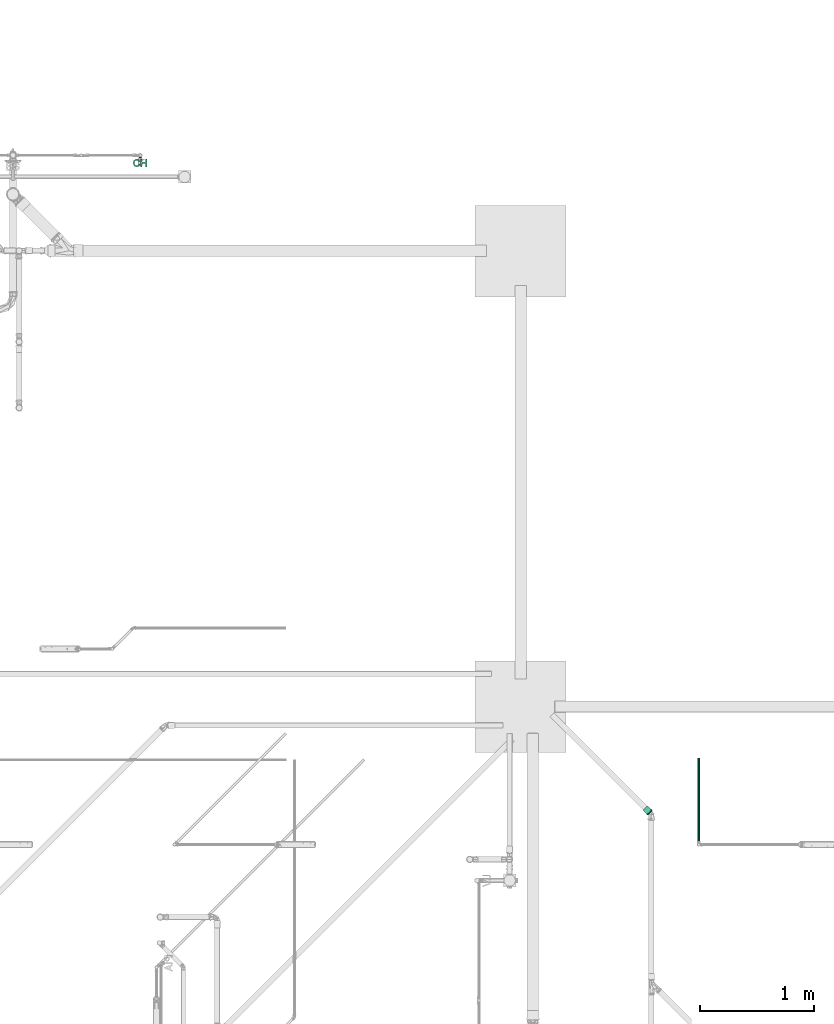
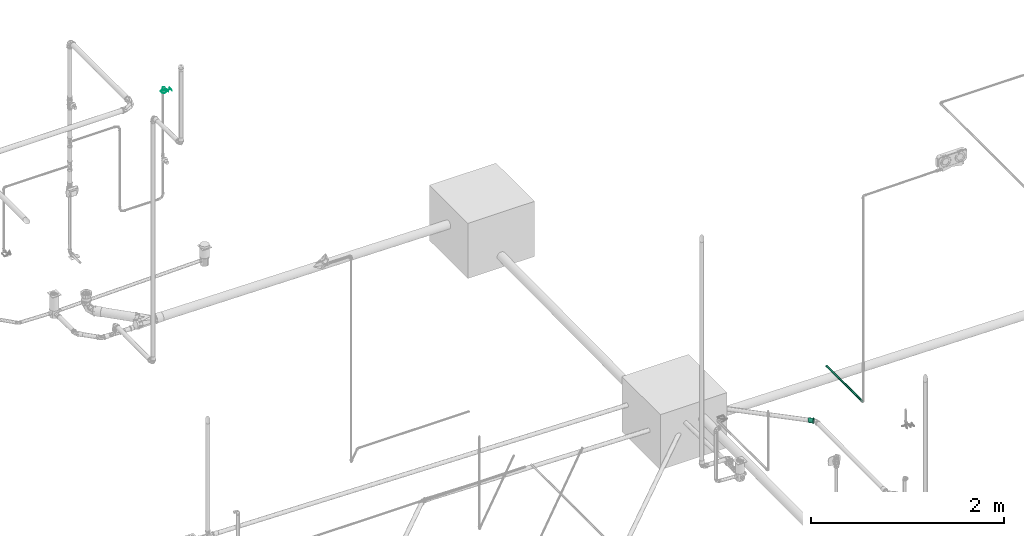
# One storey, part 297 of 589: 1 flow fitting, 1 flow segment, 1 flow terminal.
"""IFC2X3 building model written with IfcOpenShell, lengths in millimetres."""

from ifc_helpers import new_model, entity, si_unit, converted_unit, derived_unit, direction, frame, frame_2d, origin, place, context, subcontext, project, spatial, circle, extrude, face_set, faceted_brep, surface_model, source, transform, mapped, material, type_object, type_shapes, element, save


model = new_model("IFC2X3")

# Units and contexts
model_context = context("Model", 3, precision=0.01, world=origin(), true_north=direction((6.123031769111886e-17, 1.0)))
body_context = subcontext(model_context, "Body", "Model", "MODEL_VIEW")
ifc_project = project(units=[si_unit("LENGTHUNIT", "METRE", prefix="MILLI"), si_unit("AREAUNIT", "SQUARE_METRE"), si_unit("VOLUMEUNIT", "CUBIC_METRE"), converted_unit("PLANEANGLEUNIT", "DEGREE", entity("IfcRatioMeasure", 0.017453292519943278), si_unit("PLANEANGLEUNIT", "RADIAN"), dimensions=[0, 0, 0, 0, 0, 0, 0]), si_unit("MASSUNIT", "GRAM", prefix="KILO"), derived_unit("MASSDENSITYUNIT", [(si_unit("MASSUNIT", "GRAM", prefix="KILO"), 1), (si_unit("LENGTHUNIT", "METRE"), -3)]), derived_unit("IONCONCENTRATIONUNIT", [(si_unit("MASSUNIT", "GRAM", prefix="KILO"), 1), (si_unit("LENGTHUNIT", "METRE"), -3)]), derived_unit("MOMENTOFINERTIAUNIT", [(si_unit("LENGTHUNIT", "METRE"), 4)]), si_unit("TIMEUNIT", "SECOND"), si_unit("FREQUENCYUNIT", "HERTZ"), si_unit("THERMODYNAMICTEMPERATUREUNIT", "DEGREE_CELSIUS"), derived_unit("THERMALTRANSMITTANCEUNIT", [(si_unit("MASSUNIT", "GRAM", prefix="KILO"), 1), (si_unit("THERMODYNAMICTEMPERATUREUNIT", "KELVIN"), -1), (si_unit("TIMEUNIT", "SECOND"), -3)]), derived_unit("THERMALCONDUCTANCEUNIT", [(si_unit("MASSUNIT", "GRAM", prefix="KILO"), 1), (si_unit("THERMODYNAMICTEMPERATUREUNIT", "KELVIN"), -1), (si_unit("TIMEUNIT", "SECOND"), -3), (si_unit("LENGTHUNIT", "METRE"), 1)]), derived_unit("VOLUMETRICFLOWRATEUNIT", [(si_unit("LENGTHUNIT", "METRE"), 3), (si_unit("TIMEUNIT", "SECOND"), -1)]), derived_unit("MASSFLOWRATEUNIT", [(si_unit("MASSUNIT", "GRAM", prefix="KILO"), 1), (si_unit("TIMEUNIT", "SECOND"), -1)]), derived_unit("ROTATIONALFREQUENCYUNIT", [(si_unit("TIMEUNIT", "SECOND"), -1)]), si_unit("ELECTRICCURRENTUNIT", "AMPERE"), si_unit("ELECTRICVOLTAGEUNIT", "VOLT"), si_unit("POWERUNIT", "WATT"), si_unit("FORCEUNIT", "NEWTON", prefix="KILO"), si_unit("ILLUMINANCEUNIT", "LUX"), si_unit("LUMINOUSFLUXUNIT", "LUMEN"), si_unit("LUMINOUSINTENSITYUNIT", "CANDELA"), derived_unit("USERDEFINED", [(si_unit("MASSUNIT", "GRAM", prefix="KILO"), -1), (si_unit("LENGTHUNIT", "METRE"), -2), (si_unit("TIMEUNIT", "SECOND"), 3), (si_unit("LUMINOUSFLUXUNIT", "LUMEN"), 1)]), derived_unit("USERDEFINED", [(si_unit("MASSUNIT", "GRAM", prefix="KILO"), 1), (si_unit("TIMEUNIT", "SECOND"), -3), (si_unit("LENGTHUNIT", "METRE"), 3), (si_unit("ELECTRICCURRENTUNIT", "AMPERE"), -2)]), derived_unit("SOUNDPOWERUNIT", [(si_unit("MASSUNIT", "GRAM", prefix="KILO"), 1), (si_unit("TIMEUNIT", "SECOND"), -3), (si_unit("LENGTHUNIT", "METRE"), 2)]), derived_unit("SOUNDPRESSUREUNIT", [(si_unit("MASSUNIT", "GRAM", prefix="KILO"), 1), (si_unit("LENGTHUNIT", "METRE"), -1), (si_unit("TIMEUNIT", "SECOND"), -2)]), derived_unit("LINEARVELOCITYUNIT", [(si_unit("LENGTHUNIT", "METRE"), 1), (si_unit("TIMEUNIT", "SECOND"), -1)]), si_unit("PRESSUREUNIT", "PASCAL"), derived_unit("USERDEFINED", [(si_unit("MASSUNIT", "GRAM", prefix="KILO"), 1), (si_unit("LENGTHUNIT", "METRE"), -2), (si_unit("TIMEUNIT", "SECOND"), -2)]), derived_unit("LINEARFORCEUNIT", [(si_unit("MASSUNIT", "GRAM", prefix="KILO"), 1), (si_unit("TIMEUNIT", "SECOND"), -2)]), derived_unit("PLANARFORCEUNIT", [(si_unit("MASSUNIT", "GRAM", prefix="KILO"), 1), (si_unit("LENGTHUNIT", "METRE"), -1), (si_unit("TIMEUNIT", "SECOND"), -2)]), derived_unit("SPECIFICHEATCAPACITYUNIT", [(si_unit("THERMODYNAMICTEMPERATUREUNIT", "KELVIN"), -1), (si_unit("LENGTHUNIT", "METRE"), 2), (si_unit("TIMEUNIT", "SECOND"), -2)]), derived_unit("HEATINGVALUEUNIT", [(si_unit("LENGTHUNIT", "METRE"), 2), (si_unit("TIMEUNIT", "SECOND"), -2)]), derived_unit("VAPORPERMEABILITYUNIT", [(si_unit("LENGTHUNIT", "METRE"), -1), (si_unit("TIMEUNIT", "SECOND"), 1)]), derived_unit("DYNAMICVISCOSITYUNIT", [(si_unit("MASSUNIT", "GRAM", prefix="KILO"), 1), (si_unit("TIMEUNIT", "SECOND"), -1), (si_unit("LENGTHUNIT", "METRE"), -1)]), derived_unit("THERMALEXPANSIONCOEFFICIENTUNIT", [(si_unit("THERMODYNAMICTEMPERATUREUNIT", "KELVIN"), -1)]), derived_unit("MODULUSOFELASTICITYUNIT", [(si_unit("MASSUNIT", "GRAM", prefix="KILO"), 1), (si_unit("LENGTHUNIT", "METRE"), -1), (si_unit("TIMEUNIT", "SECOND"), -2)]), derived_unit("ISOTHERMALMOISTURECAPACITYUNIT", [(si_unit("LENGTHUNIT", "METRE"), 3), (si_unit("MASSUNIT", "GRAM", prefix="KILO"), -1)]), derived_unit("MOISTUREDIFFUSIVITYUNIT", [(si_unit("TIMEUNIT", "SECOND"), -1), (si_unit("LENGTHUNIT", "METRE"), 2)])], contexts=[model_context])

# Site, building, storey
site_placement = place(None, origin())
site = spatial("IfcSite", under=ifc_project, at=site_placement, Name="Default", CompositionType="ELEMENT")
building_placement = place(site_placement, origin())
building = spatial("IfcBuilding", under=site, at=building_placement, CompositionType="ELEMENT")
storey_placement = place(building_placement, frame((0.0, 0.0, 100.0)))
storey = spatial("IfcBuildingStorey", under=building, at=storey_placement, Name="TÉRREO", CompositionType="ELEMENT", Elevation=100.0)

# Flow terminal
ifc_material_1 = material(Name="<Unnamed>")
distribution_element_type = type_object("IfcDistributionElementType", Name="Hidráulica_Ponto de Utilização_Uso Provável_Rodrigo MEP:Chuveiro Elétrico CH (Peso 0,1)", material=ifc_material_1)
shared_shape_1 = source(origin(), body_context, "Body", "SurfaceModel", [
    surface_model("IfcFaceBasedSurfaceModel", [(48.0, 23.749999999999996, 11.595272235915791), (41.21093749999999, 11.968749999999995, 11.595272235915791), (28.968749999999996, 8.0, 11.595272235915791), (17.9296875, 10.91406249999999, 11.595272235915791), (10.414062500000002, 19.718749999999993, 11.595272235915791), (8.0, 33.5, 11.595272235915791), (10.039062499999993, 45.39062499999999, 11.595272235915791), (17.109374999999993, 54.57812499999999, 11.595272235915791), (29.624999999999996, 58.0, 11.595272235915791), (40.43749999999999, 54.91406249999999, 11.595272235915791), (47.0, 45.078125, 11.595272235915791), (55.0, 46.98437499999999, 11.595272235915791), (45.96093749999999, 61.01562499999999, 11.595272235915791), (29.937499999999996, 66.0, 11.595272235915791), (14.562499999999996, 62.1484375, 11.595272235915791), (3.789062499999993, 50.87499999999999, 11.595272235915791), (0.0, 33.48437499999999, 11.595272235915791), (3.3515624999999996, 16.374999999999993, 11.595272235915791), (13.117187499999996, 4.203124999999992, 11.595272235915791), (29.765624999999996, 0.0, 11.595272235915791), (46.515625, 5.554687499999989, 11.595272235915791), (56.0, 21.687499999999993, 11.595272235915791), (67.0, 1.0, 11.595272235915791), (75.0, 1.0, 11.595272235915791), (75.0, 31.0, 11.595272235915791), (109.0, 31.0, 11.595272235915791), (109.0, 1.0, 11.595272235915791), (117.0, 1.0, 11.595272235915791), (117.0, 65.0, 11.595272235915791), (109.0, 65.0, 11.595272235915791), (109.0, 39.0, 11.595272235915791), (75.0, 39.0, 11.595272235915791), (75.0, 65.0, 11.595272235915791), (67.0, 65.0, 11.595272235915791), (50.0, 79.06704158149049, 11.595272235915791), (50.340741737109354, 79.06704158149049, 14.183462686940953), (51.33974596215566, 79.06704158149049, 16.59527223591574), (52.92893218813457, 79.06704158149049, 18.666340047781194), (55.0, 79.06704158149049, 20.25552627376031), (57.41180954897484, 79.06704158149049, 21.254530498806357), (60.0, 79.06704158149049, 21.595272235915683), (62.58819045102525, 79.06704158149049, 21.254530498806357), (65.0, 79.06704158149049, 20.255526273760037), (67.0710678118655, 79.06704158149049, 18.666340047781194), (68.66025403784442, 79.06704158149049, 16.59527223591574), (69.65925826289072, 79.06704158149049, 14.183462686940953), (70.0, 79.06704158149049, 11.595272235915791), (69.6592582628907, 79.06704158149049, 9.007081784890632), (68.66025403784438, 79.06704158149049, 6.5952722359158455), (67.07106781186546, 79.06704158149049, 4.524204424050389), (65.0, 79.06704158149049, 2.9350181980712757), (62.58819045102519, 79.06704158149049, 1.9360139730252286), (60.0, 79.06704158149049, 1.5952722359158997), (57.41180954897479, 79.06704158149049, 1.9360139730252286), (55.0, 79.06704158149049, 2.935018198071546), (52.928932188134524, 79.06704158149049, 4.524204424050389), (51.339745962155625, 79.06704158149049, 6.5952722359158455), (50.34074173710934, 79.06704158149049, 9.007081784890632), (50.0, 84.06704158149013, 11.595272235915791), (50.340741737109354, 84.06704158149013, 14.183462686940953), (51.33974596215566, 84.06704158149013, 16.59527223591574), (52.92893218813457, 84.06704158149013, 18.666340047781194), (55.0, 84.06704158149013, 20.25552627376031), (57.41180954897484, 84.06704158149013, 21.254530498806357), (60.0, 84.06704158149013, 21.595272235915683), (62.58819045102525, 84.06704158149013, 21.254530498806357), (65.0, 84.06704158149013, 20.255526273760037), (67.0710678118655, 84.06704158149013, 18.666340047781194), (68.66025403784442, 84.06704158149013, 16.59527223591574), (69.65925826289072, 84.06704158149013, 14.183462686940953), (70.0, 84.06704158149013, 11.595272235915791), (69.6592582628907, 84.06704158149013, 9.007081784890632), (68.66025403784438, 84.06704158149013, 6.5952722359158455), (67.07106781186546, 84.06704158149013, 4.524204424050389), (65.0, 84.06704158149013, 2.9350181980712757), (62.58819045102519, 84.06704158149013, 1.9360139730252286), (60.0, 84.06704158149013, 1.5952722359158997), (57.41180954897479, 84.06704158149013, 1.9360139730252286), (55.0, 84.06704158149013, 2.935018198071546), (52.928932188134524, 84.06704158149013, 4.524204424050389), (51.339745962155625, 84.06704158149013, 6.5952722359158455), (50.34074173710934, 84.06704158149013, 9.007081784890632)], [face_set([[[0, 1, 2, 3, 4, 5, 6, 7, 8, 9, 10, 11, 12, 13, 14, 15, 16, 17, 18, 19, 20, 21]], [[22, 23, 24, 25, 26, 27, 28, 29, 30, 31, 32, 33]]]), face_set([[[34, 35, 36, 37, 38, 39, 40, 41, 42, 43, 44, 45, 46, 47, 48, 49, 50, 51, 52, 53, 54, 55, 56, 57]], [[58, 59, 60, 61, 62, 63, 64, 65, 66, 67, 68, 69, 70, 71, 72, 73, 74, 75, 76, 77, 78, 79, 80, 81]], [[58, 81, 57, 34]], [[81, 80, 56, 57]], [[79, 78, 54, 55]], [[80, 79, 55, 56]], [[78, 77, 53, 54]], [[52, 53, 77, 76]], [[76, 75, 51, 52]], [[75, 74, 50, 51]], [[73, 72, 48, 49]], [[74, 73, 49, 50]], [[72, 71, 47, 48]], [[46, 47, 71, 70]], [[70, 69, 45, 46]], [[69, 68, 44, 45]], [[67, 66, 42, 43]], [[68, 67, 43, 44]], [[66, 65, 41, 42]], [[40, 41, 65, 64]], [[64, 63, 39, 40]], [[63, 62, 38, 39]], [[61, 60, 36, 37]], [[62, 61, 37, 38]], [[60, 59, 35, 36]], [[34, 35, 59, 58]]])]),
])
type_shapes(distribution_element_type, [shared_shape_1])
flow_terminal_placement = place(storey_placement, frame((7110.736711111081, 7435.557711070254, 1988.404727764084)))
element("IfcFlowTerminal", 1, at=flow_terminal_placement, inside=storey, type_object=distribution_element_type, material=ifc_material_1, Name="Hidráulica_Ponto de Utilização_Uso Provável_Rodrigo MEP:Chuveiro Elétrico CH (Peso 0,1)", ObjectType="Hidráulica_Ponto de Utilização_Uso Provável_Rodrigo MEP:Chuveiro Elétrico CH (Peso 0,1)", context=body_context, shape_type="MappedRepresentation", body=[
    mapped(shared_shape_1, transform((0.0, 0.0, 0.0), scale=1.0)),
])

# Flow segment
pipe_segment_type = type_object("IfcPipeSegmentType", Name="Tipos de tubos:PVC Marrom Soldável", PredefinedType="NOTDEFINED")
flow_segment_placement = place(storey_placement, origin())
element("IfcFlowSegment", 2, at=flow_segment_placement, inside=storey, type_object=pipe_segment_type, Name="Tipos de tubos:PVC Marrom Soldável", ObjectType="Tipos de tubos:PVC Marrom Soldável", context=body_context, shape_type="SweptSolid", body=[
    extrude(circle(Radius=12.5, at=frame_2d((9.610862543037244e-28, -8.443855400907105e-15), x_axis=(1.0, 0.0))), frame((12071.388900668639, 1502.6074695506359, -37.352537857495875), z_axis=(0.0, 1.0, 0.0), x_axis=(1.0, 0.0, 0.0)), (5.178768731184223e-09, 0.0, 1.0), 744.6000000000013),
])

# Flow fitting
ifc_material_2 = material(Name="PVC Série Normal")
pipe_fitting_type = type_object("IfcPipeFittingType", Name="PVC Esgoto_Luva Simples para Conexão_Rodrigo MEP:Standard", PredefinedType="NOTDEFINED", material=ifc_material_2)
shared_shape_2 = source(origin(), body_context, "Body", "Brep", [
    faceted_brep([(16.599999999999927, 15.900000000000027, -27.53960784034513), (16.599999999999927, 22.485995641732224, -22.485995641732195), (16.599999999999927, 13.599999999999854, -23.555890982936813), (16.599999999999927, 7.039878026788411, -26.273182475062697), (16.599999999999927, 8.2304456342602, -30.71644127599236), (16.599999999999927, 19.233304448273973, -19.233304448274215), (16.599999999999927, 27.539607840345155, -15.899999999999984), (16.599999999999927, 23.55589098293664, -13.600000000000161), (16.599999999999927, 26.273182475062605, -7.03987802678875), (16.599999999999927, 30.716441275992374, -8.230445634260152), (16.599999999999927, 27.2, 0.0), (16.599999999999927, 31.8, 0.0), (16.599999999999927, 26.273182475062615, 7.0398780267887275), (16.599999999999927, 30.71644127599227, 8.23044563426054), (16.599999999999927, 23.555890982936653, 13.60000000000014), (16.599999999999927, 27.539607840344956, 15.900000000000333), (16.599999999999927, 19.233304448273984, 19.2333044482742), (16.599999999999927, 22.485995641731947, 22.48599564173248), (16.599999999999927, 13.599999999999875, 23.555890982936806), (16.599999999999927, 15.899999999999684, 27.53960784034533), (16.599999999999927, 7.039878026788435, 26.27318247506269), (16.599999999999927, 8.230445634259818, 30.716441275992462), (16.599999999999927, 0.0, 27.2), (16.599999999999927, 0.0, 31.8), (16.599999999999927, -7.039878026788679, 26.273182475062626), (16.599999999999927, -8.230445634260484, 30.716441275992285), (16.599999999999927, -13.600000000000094, 23.555890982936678), (16.599999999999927, -15.900000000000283, 27.53960784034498), (16.599999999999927, -19.23330444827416, 19.233304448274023), (16.599999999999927, -22.485995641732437, 22.48599564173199), (16.599999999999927, -23.55589098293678, 13.59999999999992), (16.599999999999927, -27.539607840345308, 15.899999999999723), (16.599999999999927, -30.71644127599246, 8.230445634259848), (16.599999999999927, -26.273182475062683, 7.039878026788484), (16.599999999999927, -31.8, 0.0), (16.599999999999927, -27.2, 0.0), (16.599999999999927, -30.71644127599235, -8.23044563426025), (16.599999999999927, -26.273182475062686, -7.03987802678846), (16.599999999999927, -27.53960784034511, -15.90000000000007), (16.599999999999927, -23.55589098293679, -13.599999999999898), (16.599999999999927, -22.485995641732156, -22.485995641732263), (16.599999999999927, -19.233304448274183, -19.233304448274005), (16.599999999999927, -15.899999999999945, -27.53960784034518), (16.599999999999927, -13.600000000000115, -23.555890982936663), (16.599999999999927, -8.230445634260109, -30.716441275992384), (16.599999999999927, -7.039878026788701, -26.273182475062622), (16.599999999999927, 0.0, -31.8), (16.599999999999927, 0.0, -27.2), (6.500000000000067, -10.708108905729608, 29.429219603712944), (6.500000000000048, -24.359073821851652, 20.44200387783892), (6.500000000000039, -27.120498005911, 15.6595386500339), (6.50000000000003, -29.881922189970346, 10.877073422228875), (6.500000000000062, -15.89769721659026, 27.540937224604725), (6.500000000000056, -20.128385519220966, 23.991470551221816), (6.50000000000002, -30.840961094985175, 5.438536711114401), (6.5000000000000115, -31.8, 0.0), (6.50000000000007, -5.518520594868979, 31.317501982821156), (6.500000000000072, 5.526376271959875, 31.316116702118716), (6.50000000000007, 0.00392783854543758, 31.316809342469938), (6.500000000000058, 20.134403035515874, 23.986420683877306), (6.500000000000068, 10.715490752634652, 29.42653259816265), (6.500000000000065, 15.904605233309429, 27.536948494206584), (6.500000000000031, 29.8846497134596, 10.869577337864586), (6.500000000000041, 27.12442527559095, 15.652735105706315), (6.5000000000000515, 24.364200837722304, 20.435892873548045), (6.5000000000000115, 31.8, 0.0), (6.499999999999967, 24.364200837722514, -20.435892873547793), (6.499999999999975, 27.12442527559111, -15.652735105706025), (6.499999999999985, 29.884649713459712, -10.869577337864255), (6.4999999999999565, 15.904605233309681, -27.53694849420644), (6.499999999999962, 20.134403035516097, -23.986420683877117), (6.499999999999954, 10.715490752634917, -29.42653259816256), (6.499999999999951, 5.526376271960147, -31.31611670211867), (6.499999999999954, -5.518520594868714, -31.317501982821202), (6.499999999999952, 0.003927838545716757, -31.316809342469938), (6.499999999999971, -20.128385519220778, -23.99147055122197), (6.499999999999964, -15.897697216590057, -27.54093722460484), (6.499999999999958, -10.70810890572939, -29.42921960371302), (6.499999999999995, -29.881922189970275, -10.877073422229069), (6.499999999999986, -27.12049800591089, -15.659538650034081), (6.499999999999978, -24.359073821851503, -20.442003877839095), (6.500000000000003, -30.840961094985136, -5.438536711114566), (6.499999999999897, -30.696173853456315, -6.259599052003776), (62.0, 13.600000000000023, -23.55589098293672), (62.0, 19.233304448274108, -19.23330444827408), (62.0, 12.499999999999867, -21.650635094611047), (62.0, 6.470476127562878, -24.14814565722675), (62.0, 7.039878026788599, -26.273182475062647), (62.0, 17.677669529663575, -17.677669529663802), (62.0, 23.55589098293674, -13.599999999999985), (62.0, 21.65063509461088, -12.50000000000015), (62.0, 24.148145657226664, -6.470476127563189), (62.0, 26.27318247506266, -7.039878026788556), (62.0, 25.0, 0.0), (62.0, 27.2, 0.0), (62.0, 24.148145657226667, 6.4704761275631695), (62.0, 26.273182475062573, 7.03987802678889), (62.0, 21.650635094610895, 12.500000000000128), (62.0, 23.555890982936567, 13.600000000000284), (62.0, 17.67766952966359, 17.67766952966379), (62.0, 19.233304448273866, 19.233304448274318), (62.0, 12.499999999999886, 21.650635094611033), (62.0, 13.59999999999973, 23.55589098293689), (62.0, 6.4704761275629, 24.14814565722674), (62.0, 7.039878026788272, 26.273182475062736), (62.0, 0.0, 25.0), (62.0, 0.0, 27.2), (62.0, -6.470476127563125, 24.148145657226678), (62.0, -7.039878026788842, 26.273182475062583), (62.0, -12.500000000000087, 21.650635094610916), (62.0, -13.600000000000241, 23.555890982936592), (62.0, -17.677669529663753, 17.677669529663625), (62.0, -19.233304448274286, 19.2333044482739), (62.0, -21.65063509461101, 12.499999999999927), (62.0, -23.555890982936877, 13.599999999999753), (62.0, -26.27318247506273, 7.039878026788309), (62.0, -24.14814565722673, 6.470476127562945), (62.0, -27.2, 0.0), (62.0, -25.0, 0.0), (62.0, -26.27318247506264, -7.0398780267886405), (62.0, -24.148145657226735, -6.470476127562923), (62.0, -23.5558909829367, -13.600000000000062), (62.0, -21.650635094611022, -12.499999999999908), (62.0, -19.233304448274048, -19.233304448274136), (62.0, -17.67766952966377, -17.677669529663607), (62.0, -13.599999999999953, -23.555890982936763), (62.0, -12.500000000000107, -21.650635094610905), (62.0, -7.039878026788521, -26.27318247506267), (62.0, -6.470476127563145, -24.148145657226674), (62.0, 0.0, -27.2), (62.0, 0.0, -25.0), (0.0, 12.499999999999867, -21.650635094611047), (0.0, 19.233304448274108, -19.23330444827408), (0.0, 13.600000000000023, -23.55589098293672), (0.0, 6.470476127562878, -24.14814565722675), (0.0, 17.677669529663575, -17.677669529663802), (0.0, 23.55589098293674, -13.599999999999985), (0.0, 21.65063509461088, -12.50000000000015), (0.0, 24.148145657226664, -6.470476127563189), (0.0, 26.27318247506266, -7.039878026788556), (0.0, 25.0, 0.0), (0.0, 27.2, 0.0), (0.0, 24.148145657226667, 6.4704761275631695), (0.0, 26.273182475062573, 7.03987802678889), (0.0, 21.650635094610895, 12.500000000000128), (0.0, 23.555890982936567, 13.600000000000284), (0.0, 17.67766952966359, 17.67766952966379), (0.0, 19.233304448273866, 19.233304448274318), (0.0, 12.499999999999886, 21.650635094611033), (0.0, 13.59999999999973, 23.55589098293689), (0.0, 6.4704761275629, 24.14814565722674), (0.0, 7.039878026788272, 26.273182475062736), (0.0, 0.0, 25.0), (0.0, 0.0, 27.2), (0.0, -6.470476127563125, 24.148145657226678), (0.0, -7.039878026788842, 26.273182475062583), (0.0, -12.500000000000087, 21.650635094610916), (0.0, -13.600000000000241, 23.555890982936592), (0.0, -17.677669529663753, 17.677669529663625), (0.0, -19.233304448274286, 19.2333044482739), (0.0, -21.65063509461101, 12.499999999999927), (0.0, -23.555890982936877, 13.599999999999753), (0.0, -26.27318247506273, 7.039878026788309), (0.0, -24.14814565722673, 6.470476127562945), (0.0, -27.2, 0.0), (0.0, -25.0, 0.0), (0.0, -26.27318247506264, -7.0398780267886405), (0.0, -24.148145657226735, -6.470476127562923), (0.0, -23.5558909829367, -13.600000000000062), (0.0, -21.650635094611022, -12.499999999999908), (0.0, -19.233304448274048, -19.233304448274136), (0.0, -17.67766952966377, -17.677669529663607), (0.0, -13.599999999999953, -23.555890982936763), (0.0, -12.500000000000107, -21.650635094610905), (0.0, -7.039878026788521, -26.27318247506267), (0.0, -6.470476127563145, -24.148145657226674), (0.0, 0.0, -27.2), (0.0, 0.0, -25.0), (0.0, 7.039878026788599, -26.273182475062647), (5.300000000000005, -26.37968999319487, 4.651830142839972), (5.299999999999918, -26.25584678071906, 5.354122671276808), (5.300000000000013, -25.559379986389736, 9.303660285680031), (5.300000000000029, -20.835434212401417, 17.48498444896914), (5.300000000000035, -17.216732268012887, 20.521006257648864), (5.300000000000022, -23.19740709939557, 13.394322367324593), (5.3000000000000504, -4.720244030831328, 26.787297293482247), (5.300000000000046, -9.15913717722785, 25.172162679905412), (5.299999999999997, -27.2, 0.0), (5.300000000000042, -13.598030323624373, 23.557028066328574), (5.300000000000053, 9.165451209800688, 25.169864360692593), (5.300000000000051, 13.603939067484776, 23.55361632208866), (5.300000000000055, 4.7269633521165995, 26.786112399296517), (5.300000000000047, 17.221879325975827, 20.516686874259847), (5.300000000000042, 20.839819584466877, 17.479757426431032), (5.3000000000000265, 25.56171296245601, 9.297248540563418), (5.299999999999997, 27.2, 0.0), (5.3000000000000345, 23.20076627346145, 13.388502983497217), (5.300000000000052, 0.003359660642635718, 26.786704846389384), (5.299999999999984, 25.56171296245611, -9.29724854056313), (5.299999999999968, 20.839819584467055, -17.47975742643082), (5.2999999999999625, 17.22187932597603, -20.516686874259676), (5.299999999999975, 23.200766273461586, -13.388502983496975), (5.299999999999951, 4.726963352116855, -26.78611239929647), (5.2999999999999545, 9.165451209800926, -25.169864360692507), (5.299999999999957, 13.603939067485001, -23.553616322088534), (5.29999999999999, -26.379689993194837, -4.651830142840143), (5.299999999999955, -9.159137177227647, -25.17216267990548), (5.299999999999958, -13.5980303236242, -23.55702806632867), (5.299999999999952, -4.720244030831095, -26.787297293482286), (5.299999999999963, -17.216732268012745, -20.52100625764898), (5.299999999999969, -20.83543421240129, -17.484984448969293), (5.299999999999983, -25.559379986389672, -9.303660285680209), (5.299999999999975, -23.197407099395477, -13.394322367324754), (5.299999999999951, 0.003359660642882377, -26.78670484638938), (39.0, -25.0, 0.0), (39.0, 25.0, 0.0)], [[[0, 1, 2]], [[0, 2, 3]], [[3, 4, 0]], [[2, 1, 5]], [[6, 5, 1]], [[7, 5, 6]], [[8, 7, 6]], [[8, 6, 9]], [[8, 9, 10]], [[10, 9, 11]], [[12, 10, 11]], [[12, 11, 13]], [[14, 12, 13]], [[14, 13, 15]], [[16, 14, 15]], [[15, 17, 16]], [[17, 18, 16]], [[17, 19, 18]], [[18, 19, 20]], [[21, 20, 19]], [[20, 21, 22]], [[22, 21, 23]], [[22, 23, 24]], [[24, 23, 25]], [[24, 25, 26]], [[27, 26, 25]], [[27, 28, 26]], [[28, 27, 29]], [[30, 28, 29]], [[31, 30, 29]], [[32, 30, 31]], [[33, 30, 32]], [[33, 32, 34]], [[35, 33, 34]], [[36, 35, 34]], [[36, 37, 35]], [[37, 36, 38]], [[39, 37, 38]], [[39, 38, 40]], [[39, 40, 41]], [[40, 42, 41]], [[41, 42, 43]], [[43, 42, 44]], [[44, 45, 43]], [[46, 45, 44]], [[4, 47, 46]], [[46, 47, 45]], [[4, 3, 47]], [[48, 27, 25]], [[31, 29, 49]], [[31, 49, 50, 51]], [[52, 53, 27]], [[32, 51, 54]], [[54, 55, 34]], [[54, 34, 32]], [[25, 56, 48]], [[49, 29, 53]], [[23, 57, 58, 56]], [[59, 19, 17]], [[27, 53, 29]], [[48, 52, 27]], [[31, 51, 32]], [[57, 23, 21]], [[60, 19, 61]], [[15, 62, 63, 64]], [[19, 60, 21]], [[15, 13, 62]], [[17, 64, 59]], [[57, 21, 60]], [[23, 56, 25]], [[15, 64, 17]], [[13, 65, 62]], [[13, 11, 65]], [[59, 61, 19]], [[65, 11, 9]], [[6, 1, 66]], [[6, 66, 67, 68]], [[69, 70, 0]], [[68, 65, 9]], [[71, 69, 0]], [[71, 0, 4]], [[4, 72, 71]], [[66, 1, 70]], [[46, 73, 74, 72]], [[75, 76, 42]], [[0, 70, 1]], [[75, 42, 40]], [[6, 68, 9]], [[73, 46, 44]], [[77, 42, 76]], [[38, 78, 79, 80]], [[42, 77, 44]], [[38, 36, 78]], [[40, 80, 75]], [[73, 44, 77]], [[46, 72, 4]], [[38, 80, 40]], [[36, 81, 82, 78]], [[55, 81, 34]], [[34, 81, 36]], [[83, 84, 85]], [[83, 85, 86]], [[86, 87, 83]], [[85, 84, 88]], [[89, 88, 84]], [[88, 89, 90]], [[90, 89, 91]], [[92, 91, 89]], [[92, 93, 91]], [[93, 92, 94]], [[95, 93, 94]], [[94, 96, 95]], [[95, 96, 97]], [[98, 97, 96]], [[97, 98, 99]], [[99, 98, 100]], [[101, 99, 100]], [[100, 102, 101]], [[101, 102, 103]], [[104, 103, 102]], [[103, 104, 105]], [[105, 104, 106]], [[105, 106, 107]], [[107, 106, 108]], [[107, 108, 109]], [[110, 109, 108]], [[110, 111, 109]], [[111, 110, 112]], [[112, 113, 111]], [[114, 113, 112]], [[113, 114, 115]], [[115, 116, 113]], [[117, 116, 115]], [[117, 118, 116]], [[119, 118, 117]], [[119, 120, 118]], [[120, 119, 121]], [[121, 122, 120]], [[122, 121, 123]], [[122, 123, 124]], [[123, 125, 124]], [[124, 125, 126]], [[126, 125, 127]], [[127, 128, 126]], [[129, 128, 127]], [[87, 130, 129]], [[129, 130, 128]], [[87, 86, 130]], [[131, 132, 133]], [[134, 131, 133]], [[135, 132, 131]], [[132, 135, 136]], [[137, 136, 135]], [[138, 136, 137]], [[136, 138, 139]], [[138, 140, 139]], [[141, 139, 140]], [[141, 140, 142]], [[142, 143, 141]], [[144, 143, 142]], [[143, 144, 145]], [[146, 145, 144]], [[147, 145, 146]], [[147, 146, 148]], [[148, 149, 147]], [[150, 149, 148]], [[149, 150, 151]], [[152, 151, 150]], [[153, 151, 152]], [[154, 153, 152]], [[155, 153, 154]], [[156, 155, 154]], [[155, 156, 157]], [[156, 158, 157]], [[159, 157, 158]], [[158, 160, 159]], [[159, 160, 161]], [[162, 161, 160]], [[160, 163, 162]], [[162, 163, 164]], [[163, 165, 164]], [[164, 165, 166]], [[165, 167, 166]], [[168, 166, 167]], [[167, 169, 168]], [[170, 168, 169]], [[171, 170, 169]], [[171, 172, 170]], [[173, 172, 171]], [[174, 172, 173]], [[173, 175, 174]], [[174, 175, 176]], [[175, 177, 176]], [[177, 134, 178]], [[176, 177, 178]], [[133, 178, 134]], [[162, 179, 180, 181]], [[159, 182, 183]], [[182, 161, 181, 184]], [[185, 155, 186]], [[161, 162, 181]], [[187, 179, 164]], [[183, 188, 157]], [[183, 157, 159]], [[161, 182, 159]], [[189, 190, 149]], [[189, 149, 151]], [[157, 188, 186]], [[157, 186, 155]], [[153, 155, 185]], [[164, 179, 162]], [[151, 191, 189]], [[147, 192, 193]], [[143, 194, 195]], [[194, 145, 193, 196]], [[143, 195, 141]], [[10, 12, 96, 94]], [[149, 192, 147]], [[153, 185, 197, 191]], [[153, 191, 151]], [[145, 147, 193]], [[190, 192, 149]], [[145, 194, 143]], [[139, 195, 198]], [[132, 199, 200]], [[199, 136, 198, 201]], [[202, 178, 203]], [[136, 139, 198]], [[139, 141, 195]], [[92, 8, 10, 94]], [[133, 203, 178]], [[200, 204, 133]], [[136, 199, 132]], [[205, 164, 166]], [[206, 207, 172]], [[133, 204, 203]], [[206, 172, 174]], [[176, 178, 202]], [[200, 133, 132]], [[174, 208, 206]], [[170, 209, 210]], [[166, 211, 205]], [[211, 168, 210, 212]], [[168, 211, 166]], [[172, 209, 170]], [[176, 202, 213, 208]], [[176, 208, 174]], [[168, 170, 210]], [[207, 209, 172]], [[205, 187, 164]], [[116, 118, 214, 165, 163]], [[156, 109, 111, 158]], [[111, 113, 160, 158]], [[113, 116, 163, 160]], [[107, 109, 156, 154]], [[154, 152, 105, 107]], [[103, 105, 152, 150]], [[103, 150, 148, 101]], [[142, 95, 97, 144]], [[97, 99, 146, 144]], [[99, 101, 148, 146]], [[93, 95, 142, 140, 215]], [[215, 140, 138, 91, 93]], [[135, 131, 85, 88]], [[90, 91, 138, 137]], [[90, 137, 135, 88]], [[86, 85, 131, 134]], [[134, 177, 130, 86]], [[128, 130, 177, 175]], [[128, 175, 173, 126]], [[167, 120, 122, 169]], [[122, 124, 171, 169]], [[124, 126, 173, 171]], [[118, 120, 167, 165, 214]], [[211, 78, 82, 81, 55, 187, 205]], [[79, 78, 211, 212, 210, 80]], [[75, 80, 210, 209, 207, 76]], [[207, 206, 208, 73, 77, 76]], [[213, 202, 72, 74, 73, 208]], [[203, 204, 69, 71, 72, 202]], [[198, 195, 65, 68]], [[199, 201, 198, 68, 67, 66]], [[204, 200, 199, 66, 70, 69]], [[195, 194, 62, 65]], [[197, 185, 56, 58, 57, 191]], [[63, 62, 194, 196, 193, 64]], [[57, 60, 61, 190, 189, 191]], [[193, 192, 190, 61, 59, 64]], [[48, 56, 185, 186, 188, 52]], [[187, 55, 54, 51, 181, 180, 179]], [[182, 184, 181, 51, 50, 49]], [[188, 183, 182, 49, 53, 52]], [[30, 33, 115, 114]], [[117, 115, 33, 35]], [[26, 28, 112, 110]], [[114, 112, 28, 30]], [[24, 26, 110, 108]], [[108, 106, 22, 24]], [[18, 20, 104, 102]], [[100, 16, 18, 102]], [[12, 14, 98, 96]], [[100, 98, 14, 16]], [[104, 20, 22, 106]], [[89, 7, 8, 92]], [[83, 87, 3, 2]], [[7, 89, 84, 5]], [[83, 2, 5, 84]], [[87, 129, 47, 3]], [[43, 45, 127, 125]], [[123, 41, 43, 125]], [[37, 39, 121, 119]], [[123, 121, 39, 41]], [[35, 37, 119, 117]], [[127, 45, 47, 129]]]),
])
type_shapes(pipe_fitting_type, [shared_shape_2])
flow_fitting_placement = place(storey_placement, frame((11645.183700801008, 1764.8584878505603, -292.8265800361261), z_axis=(-0.008282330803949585, 0.01999531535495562, 0.999765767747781), x_axis=(-0.7069654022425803, 0.7069654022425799, -0.01999600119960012)))
element("IfcFlowFitting", 3, at=flow_fitting_placement, inside=storey, type_object=pipe_fitting_type, material=ifc_material_2, Name="PVC Esgoto_Luva Simples para Conexão_Rodrigo MEP:Standard", ObjectType="PVC Esgoto_Luva Simples para Conexão_Rodrigo MEP:Standard", context=body_context, shape_type="MappedRepresentation", body=[
    mapped(shared_shape_2, transform((0.0, 0.0, 0.0), scale=1.0)),
])

save(model, "model.ifc")
